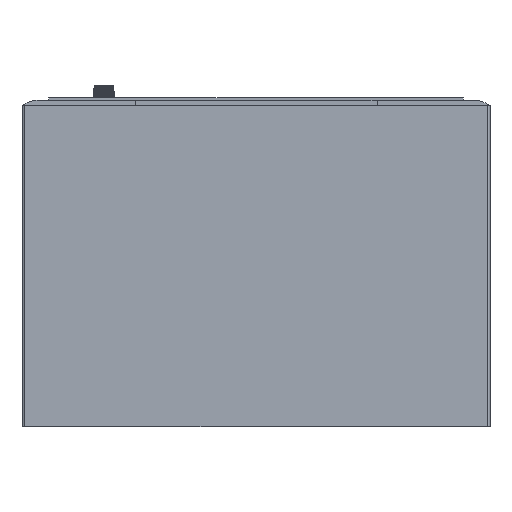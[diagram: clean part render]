
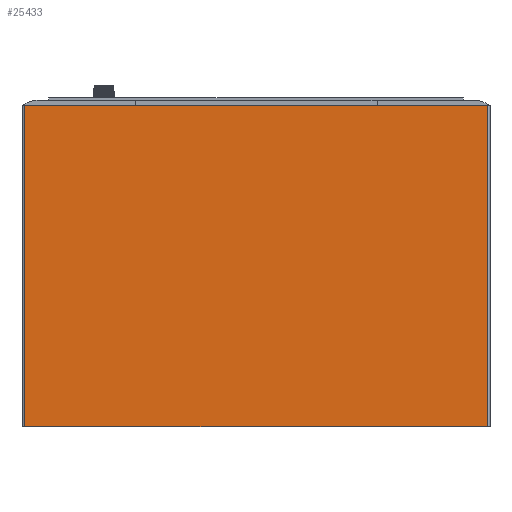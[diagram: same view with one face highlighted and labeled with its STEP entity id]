
A CAD part, front view. The second image highlights one B-rep face of the part: STEP entity #25433.
In plain terms, the highlighted planar face has unit normal (0, -1, 0).
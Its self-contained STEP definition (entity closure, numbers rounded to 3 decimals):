
#1547=PLANE('',#27368);
#2594=FACE_OUTER_BOUND('',#4500,.T.);
#4500=EDGE_LOOP('',(#18270,#18271,#18272,#18273));
#6469=LINE('',#36125,#8695);
#6530=LINE('',#36823,#8756);
#6532=LINE('',#36835,#8758);
#6533=LINE('',#36837,#8759);
#8695=VECTOR('',#29370,10.);
#8756=VECTOR('',#29971,10.);
#8758=VECTOR('',#29985,10.);
#8759=VECTOR('',#29988,10.);
#11735=VERTEX_POINT('',#36122);
#11736=VERTEX_POINT('',#36124);
#12068=VERTEX_POINT('',#36820);
#12069=VERTEX_POINT('',#36822);
#14309=EDGE_CURVE('',#11735,#11736,#6469,.T.);
#14645=EDGE_CURVE('',#12068,#12069,#6530,.T.);
#14652=EDGE_CURVE('',#12069,#11735,#6532,.T.);
#14653=EDGE_CURVE('',#11736,#12068,#6533,.T.);
#18270=ORIENTED_EDGE('',*,*,#14652,.F.);
#18271=ORIENTED_EDGE('',*,*,#14645,.F.);
#18272=ORIENTED_EDGE('',*,*,#14653,.F.);
#18273=ORIENTED_EDGE('',*,*,#14309,.F.);
#25433=ADVANCED_FACE('',(#2594),#1547,.T.);
#27368=AXIS2_PLACEMENT_3D('',#36836,#29986,#29987);
#29370=DIRECTION('',(1.,0.,0.));
#29971=DIRECTION('',(-1.,0.,0.));
#29985=DIRECTION('',(0.,0.,1.));
#29986=DIRECTION('center_axis',(0.,-1.,0.));
#29987=DIRECTION('ref_axis',(0.,0.,-1.));
#29988=DIRECTION('',(0.,0.,-1.));
#36122=CARTESIAN_POINT('',(-174.,0.,241.6));
#36124=CARTESIAN_POINT('',(174.,0.,241.6));
#36125=CARTESIAN_POINT('',(0.,0.,241.6));
#36820=CARTESIAN_POINT('',(174.,0.,0.));
#36822=CARTESIAN_POINT('',(-174.,0.,0.));
#36823=CARTESIAN_POINT('',(0.,0.,0.));
#36835=CARTESIAN_POINT('',(-174.,0.,181.2));
#36836=CARTESIAN_POINT('Origin',(0.,0.,241.6));
#36837=CARTESIAN_POINT('',(174.,0.,181.2));
